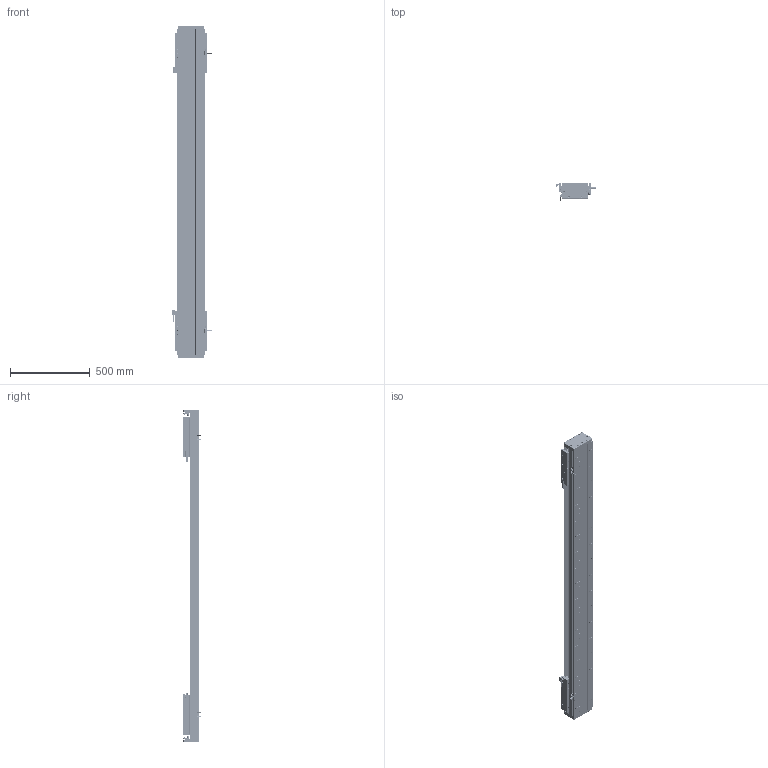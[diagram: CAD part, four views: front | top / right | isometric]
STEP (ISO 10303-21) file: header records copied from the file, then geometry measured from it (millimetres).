
FILE_DESCRIPTION (( 'STEP AP203' ), '1' );
FILE_NAME ('DA-C165-2-C3-T1460-C010-0.2 直线电机.STEP', '2023-06-13T09:24:00', ( '微软用户' ), ( '微软中国' ), 'SwSTEP 2.0', 'SolidWorks 2019', '' );
FILE_SCHEMA (( 'CONFIG_CONTROL_DESIGN' ));
Length unit declared in the file: millimetre
Products named in the file (22): 复件 XD-U-02L 磁栅尺^DA-C165-C3-T-C010-0.2-N 直线电机_T; 葩璃 CKM03-W075-C1C2-TP-3.0^DA-C165-C3-T-C010-0.2-N 眻盄萇儂; 复件 DA126-GYP-ZJ-00 中间光电感应片^DA-C165-C3-T-C010-0.2-N 直线电机; 复件 DA165-GD-1860-002-00 钢带盖板^复件 CU165钢带组件_DA-C165-C3-T-C010-0.2-N 直线电机; 复件 六角薄螺母 M3^DA-C165-C3-T-C010-0.2-N 直线电机_GB_FASTENER_NUT_STNAB M3-C; DA-C165-2-C3-T1460-C010-0.2 眻盄萇儂; 复件 CU165 底座^IU-CU165-L 底座导轨_L2040; 复件 66338-1000-006-00 光电感应块^DA-C165-C3-T-C010-0.2-N 直线电机; 珨极趙賑雄怢啣C3-wf; 葩璃 CKM01-W075-TRL^DA-C165-C3-T-C010-0.2-N 眻盄萇儂; 葩璃 PM-Y45^DA-C165-C3-T-C010-0.2-N 眻盄萇儂; 复件 DKW-HXJ-JY-00 缓冲橡胶^DA-C165-C3-T-C010-0.2-N 直线电机; 葩璃 DA95-GT-T-00^IU-CU165-L 菁釱絳寢_T; 复件 DA95-HXJ-00 缓冲橡胶^DA-C165-C3-T-C010-0.2-N 直线电机; 复件 DA165-GYP-00 光电感应片^DA-C165-C3-T-C010-0.2-N 直线电机; 复件 DA165-GDYK-00 钢带压块^复件 CU165钢带组件_DA-C165-C3-T-C010-0.2-N 直线电机; IU-CU165-L 菁釱絳寢; 复件 DMA-010-0.2 读数头^DA-C165-C3-T-C010-0.2-N 直线电机; 复件 DA165-GDLK-00 钢带拉块^复件 CU165钢带组件_DA-C165-C3-T-C010-0.2-N 直线电机; 复件 DA165-GD-DG-H-00 端盖^复件 CU165钢带组件_DA-C165-C3-T-C010-0.2-N 直线电机; 复件 CU165钢带组件^DA-C165-C3-T-C010-0.2-N 直线电机; 葩璃 PM-T45^DA-C165-C3-T-C010-0.2-N 眻盄萇儂
Assembly tree (45 placements, depth 3):
  DA-C165-2-C3-T1460-C010-0.2 眻盄萇儂
    IU-CU165-L 菁釱絳寢
      复件 CU165 底座^IU-CU165-L 底座导轨_L2040
      葩璃 DA95-GT-T-00^IU-CU165-L 菁釱絳寢_T  x4
    复件 XD-U-02L 磁栅尺^DA-C165-C3-T-C010-0.2-N 直线电机_T
    葩璃 PM-T45^DA-C165-C3-T-C010-0.2-N 眻盄萇儂  x4
    葩璃 CKM01-W075-TRL^DA-C165-C3-T-C010-0.2-N 眻盄萇儂
    复件 CU165钢带组件^DA-C165-C3-T-C010-0.2-N 直线电机
      复件 DA165-GD-DG-H-00 端盖^复件 CU165钢带组件_DA-C165-C3-T-C010-0.2-N 直线电机  x2
      复件 DA165-GDYK-00 钢带压块^复件 CU165钢带组件_DA-C165-C3-T-C010-0.2-N 直线电机  x2
      复件 DA165-GD-1860-002-00 钢带盖板^复件 CU165钢带组件_DA-C165-C3-T-C010-0.2-N 直线电机
      复件 DA165-GDLK-00 钢带拉块^复件 CU165钢带组件_DA-C165-C3-T-C010-0.2-N 直线电机  x2
    复件 DA95-HXJ-00 缓冲橡胶^DA-C165-C3-T-C010-0.2-N 直线电机  x4
    复件 DMA-010-0.2 读数头^DA-C165-C3-T-C010-0.2-N 直线电机  x2
    复件 DA165-GYP-00 光电感应片^DA-C165-C3-T-C010-0.2-N 直线电机  x2
    复件 66338-1000-006-00 光电感应块^DA-C165-C3-T-C010-0.2-N 直线电机
    葩璃 PM-Y45^DA-C165-C3-T-C010-0.2-N 眻盄萇儂
    复件 DA126-GYP-ZJ-00 中间光电感应片^DA-C165-C3-T-C010-0.2-N 直线电机
    葩璃 CKM03-W075-C1C2-TP-3.0^DA-C165-C3-T-C010-0.2-N 眻盄萇儂  x2
    复件 DKW-HXJ-JY-00 缓冲橡胶^DA-C165-C3-T-C010-0.2-N 直线电机  x2
    复件 六角薄螺母 M3^DA-C165-C3-T-C010-0.2-N 直线电机_GB_FASTENER_NUT_STNAB M3-C  x8
    珨极趙賑雄怢啣C3-wf  x2
Bounding box: 247.2 x 111.45 x 2080 mm (x, y, z)
Volume: 14669107.2 mm3; surface area: 4026645.7 mm2
Topology: 121 solids, 221 shells, 6281 faces, 16834 edges, 10418 vertices
Faces by surface type: cylinder 3214, plane 1999, cone 980, torus 80, sphere 8
Entity records: 134028 total; most frequent: CARTESIAN_POINT 34277, ORIENTED_EDGE 20252, DIRECTION 20244, EDGE_CURVE 10126, AXIS2_PLACEMENT_3D 7699, VERTEX_POINT 6572, LINE 4846, VECTOR 4846
